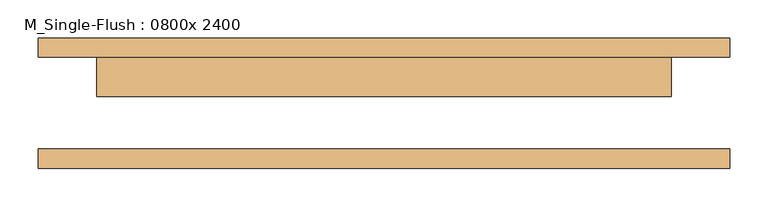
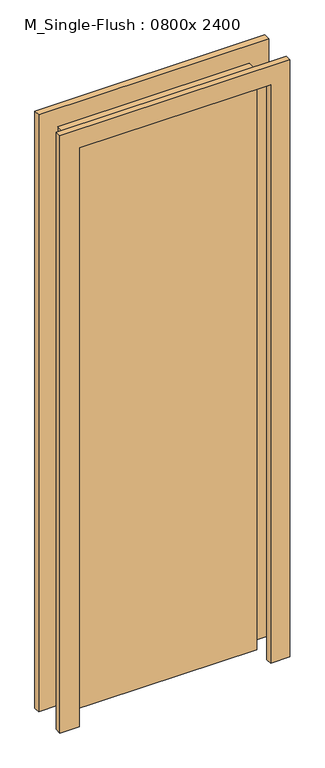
"""IFC4 building model written with IfcOpenShell, lengths in millimetres: door geometry, M_Single-Flush : 0800x 2400."""

from ifc_helpers import new_model, si_unit, frame, origin, origin_with_axes, place, context, project, spatial, polyline, outline, extrude, source, transform, mapped, element, save


def m_single_flush_0800x_2400_d2134bde(model_context):
    return source(origin(), model_context, "Body", "SweptSolid", [
        extrude(outline(polyline([(375.0, 9.0), (-375.0, 9.0), (-375.0, 60.0), (375.0, 60.0), (375.0, 9.0)])), origin_with_axes(), (0.0, 0.0, 1.0), 2400.0),
        extrude(outline(polyline([(2476.0, -451.0), (0.0, -451.0), (0.0, -375.0), (2400.0, -375.0), (2400.0, 375.0), (0.0, 375.0), (0.0, 451.0), (2476.0, 451.0), (2476.0, -451.0)])), frame((0.0, 60.0, 0.0), z_axis=(0.0, 1.0, 0.0), x_axis=(0.0, 0.0, 1.0)), (0.0, 0.0, 1.0), 25.0),
        extrude(outline(polyline([(2476.0, 451.0), (2476.0, -451.0), (0.0, -451.0), (0.0, -375.0), (2400.0, -375.0), (2400.0, 375.0), (0.0, 375.0), (0.0, 451.0), (2476.0, 451.0)])), frame((0.0, -85.0, 0.0), z_axis=(0.0, 1.0, 0.0), x_axis=(0.0, 0.0, 1.0)), (0.0, 0.0, 1.0), 25.0),
    ])


if __name__ == "__main__":
    model = new_model("IFC4")
    model_context = context("Model", 3, world=origin())
    ifc_project = project(units=[si_unit("LENGTHUNIT", "METRE", prefix="MILLI")], contexts=[model_context])
    site = spatial("IfcSite", under=ifc_project)
    building = spatial("IfcBuilding", under=site)
    placement = place(None, origin())
    m_single_flush_0800x_2400_shape = m_single_flush_0800x_2400_d2134bde(model_context)
    element("IfcDoor", 1, ObjectType="M_Single-Flush : 0800x 2400", at=placement, inside=building, context=model_context, shape_type="MappedRepresentation", body=[
        mapped(m_single_flush_0800x_2400_shape, transform((0.0, 0.0, 0.0), x_axis=(1.0, 0.0, 0.0), y_axis=(0.0, 1.0, 0.0), z_axis=(0.0, 0.0, 1.0))),
    ])
    save(model, "model.ifc")
